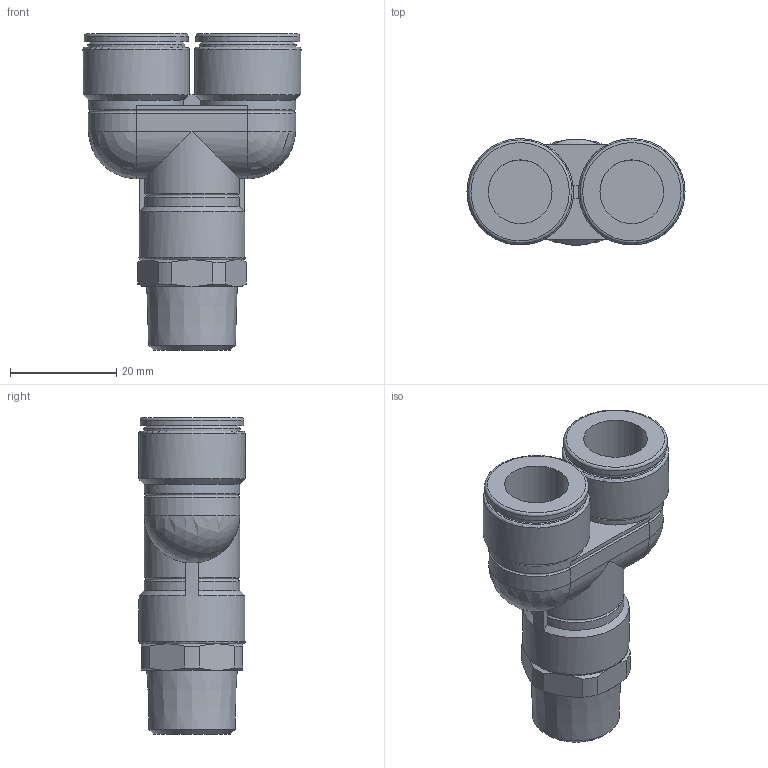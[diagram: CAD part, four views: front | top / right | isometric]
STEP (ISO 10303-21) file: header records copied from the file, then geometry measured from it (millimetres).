
FILE_DESCRIPTION(/* description */ (''),/* implementation_level */ '2;1');
FILE_NAME(/* name */ 'E:\2013年度版　3D-DATA\【02】 TOUCH CONNECTOR FIVE SUS\[04] MALE BRANCH Y\[16] FS12-03MY FS12-03MYW.stp',/* time_stamp */ '2013-08-06T16:55:13+09:00',/* author */ ('takahashi-pc2'),/* organization */ (''),/* preprocessor_version */ 'ST-DEVELOPER v15.2',/* originating_system */ 'Autodesk Inventor 2014',/* authorisation */ '');
FILE_SCHEMA (('AUTOMOTIVE_DESIGN { 1 0 10303 214 3 1 1 }'));
Length unit declared in the file: millimetre
Products named in the file (1): [16] FS12-03MY FS12-03MYW
Bounding box: 41 x 20 x 59.5 mm (x, y, z)
Volume: 20784.4 mm3; surface area: 7464.6 mm2
Topology: 1 solids, 1 shells, 87 faces, 199 edges, 117 vertices
Faces by surface type: plane 29, cylinder 27, cone 20, torus 9, sphere 2
Full cylindrical faces by diameter (mm): 12 x2, 18.2 x2, 19.5 x2, 20 x3
Entity records: 2337 total; most frequent: CARTESIAN_POINT 518, DIRECTION 394, ORIENTED_EDGE 348, EDGE_CURVE 174, AXIS2_PLACEMENT_3D 170, VERTEX_POINT 114, EDGE_LOOP 112, ADVANCED_FACE 87
